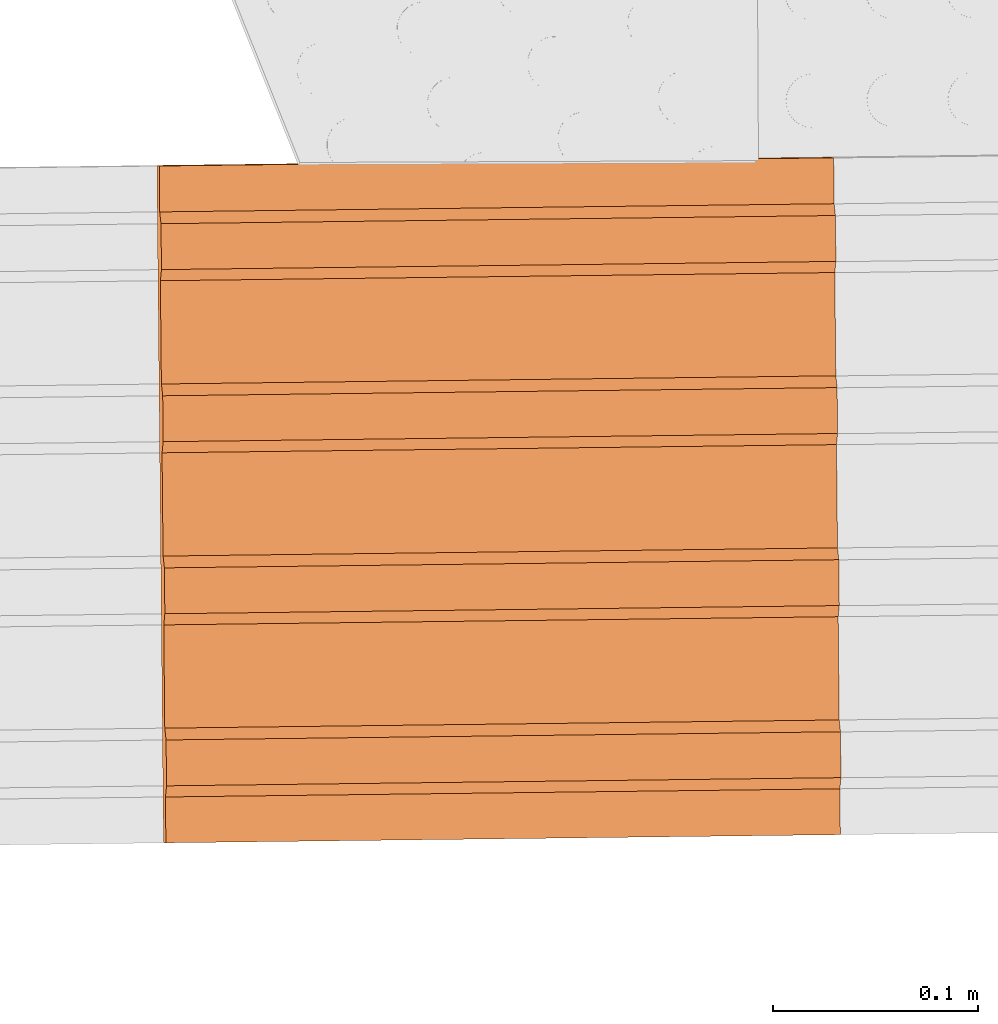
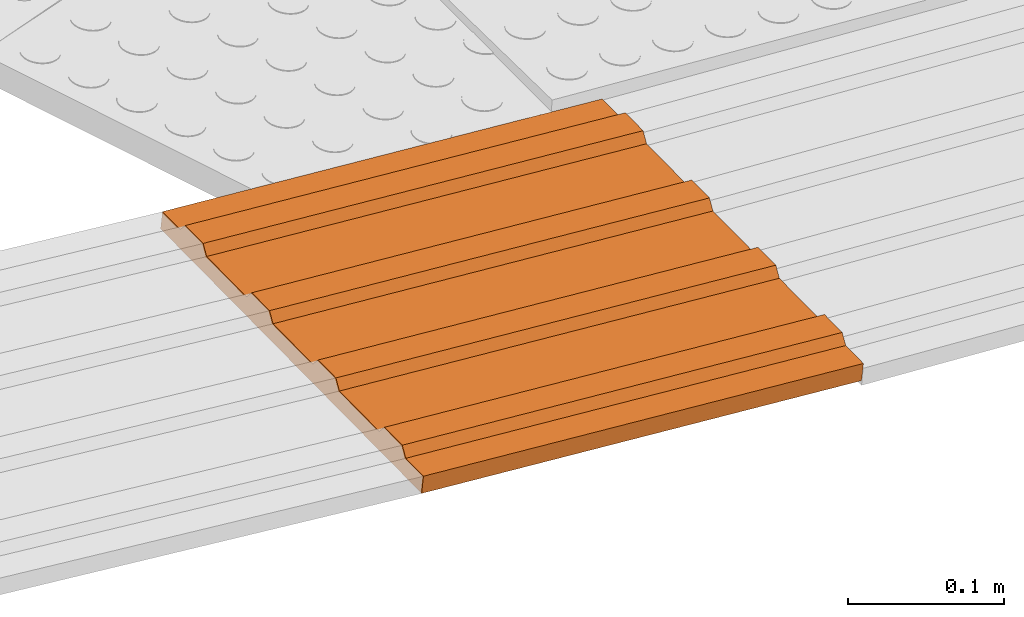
# One storey, part 225 of 237: 1 proxy.
"""IFC2X3 building model written with IfcOpenShell, lengths in millimetres."""

from ifc_helpers import new_model, entity, si_unit, converted_unit, derived_unit, money_unit, direction, frame, origin_with_axes, place, context, subcontext, project, spatial, open_shell, surface_model, type_object, element, save


model = new_model("IFC2X3")

# Units and contexts
model_context = context("Model", 3, precision=0.01, world=origin_with_axes(), true_north=direction((0.0, 1.0)))
body_context = subcontext(model_context, "Body", "Model", "MODEL_VIEW")
ifc_project = project(units=[si_unit("LENGTHUNIT", "METRE", prefix="MILLI"), si_unit("AREAUNIT", "SQUARE_METRE"), si_unit("VOLUMEUNIT", "CUBIC_METRE"), converted_unit("PLANEANGLEUNIT", "DEGREE", entity("IfcPlaneAngleMeasure", 0.0174532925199), si_unit("PLANEANGLEUNIT", "RADIAN"), dimensions=[0, 0, 0, 0, 0, 0, 0]), money_unit("USD"), converted_unit("TIMEUNIT", "Year", entity("IfcTimeMeasure", 31556926.0), si_unit("TIMEUNIT", "SECOND"), dimensions=[0, 0, 1, 0, 0, 0, 0]), si_unit("MASSUNIT", "GRAM", prefix="KILO"), si_unit("THERMODYNAMICTEMPERATUREUNIT", "DEGREE_CELSIUS"), si_unit("LUMINOUSINTENSITYUNIT", "LUMEN"), si_unit("ENERGYUNIT", "JOULE", prefix="MEGA"), derived_unit("THERMALCONDUCTANCEUNIT", [(si_unit("POWERUNIT", "WATT"), 1), (si_unit("LENGTHUNIT", "METRE"), -1), (si_unit("THERMODYNAMICTEMPERATUREUNIT", "KELVIN"), -1)]), derived_unit("SPECIFICHEATCAPACITYUNIT", [(si_unit("ENERGYUNIT", "JOULE"), 1), (si_unit("MASSUNIT", "GRAM", prefix="KILO"), -1), (si_unit("THERMODYNAMICTEMPERATUREUNIT", "KELVIN"), -1)]), derived_unit("MASSDENSITYUNIT", [(si_unit("MASSUNIT", "GRAM", prefix="KILO"), 1), (si_unit("VOLUMEUNIT", "CUBIC_METRE"), -1)])], contexts=[model_context])

# Site, building, storey
site_placement = place(None, origin_with_axes())
site = spatial("IfcSite", under=ifc_project, at=site_placement, Name="Local", CompositionType="ELEMENT")
building_placement = place(site_placement, origin_with_axes())
building = spatial("IfcBuilding", under=site, at=building_placement, Name="Construção", CompositionType="ELEMENT")
storey_placement = place(building_placement, origin_with_axes())
storey = spatial("IfcBuildingStorey", under=building, at=storey_placement, Name="Pavimento Térreo", CompositionType="ELEMENT", Elevation=0.0)

# Proxy
building_element_proxy_type = type_object("IfcBuildingElementProxyType", Name="Piso Direcional 27", PredefinedType="NOTDEFINED")
proxy_placement = place(storey_placement, frame((52499.2255291, 36685.4998498, -1693.38299299), z_axis=(0.0, 0.0, 1.0), x_axis=(-0.999926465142, -0.012127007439, 0.0)))
element("IfcBuildingElementProxy", 1, at=proxy_placement, inside=storey, type_object=building_element_proxy_type, Name="Objeto-0055", context=body_context, shape_type="SurfaceModel", body=[
    surface_model("IfcShellBasedSurfaceModel", [(-0.463382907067, -47.1365767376, 5.24378183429), (328.255643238, -47.1365767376, 34.2920494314), (327.681898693, -41.3707600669, 40.7847171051), (-1.03712745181, -41.3707600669, 11.736449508)], [open_shell([[[0, 1, 2, 3]]])]),
    surface_model("IfcShellBasedSurfaceModel", [(329.184035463, -153.720372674, 23.7860807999), (329.944430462, 176.166544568, 15.1812198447), (328.771165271, 176.515570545, 28.4582453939), (328.719613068, 154.150355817, 29.0416257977), (328.120092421, 148.733565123, 35.8259836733), (328.068540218, 126.368350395, 36.409364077), (328.642284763, 120.602533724, 29.9166964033), (328.526292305, 70.2808005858, 31.2293023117), (327.926771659, 64.8640098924, 38.0136601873), (327.875219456, 42.4987951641, 38.597040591), (328.448964, 36.7329784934, 32.1043729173), (328.332971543, -13.5887546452, 33.4169788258), (327.733450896, -19.0055453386, 40.2013367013), (327.681898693, -41.3707600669, 40.7847171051), (328.255643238, -47.1365767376, 34.2920494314), (328.13965078, -97.4583098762, 35.6046553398), (327.540130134, -102.87510057, 42.3890132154), (327.48857793, -125.240315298, 42.9723936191), (328.062322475, -131.006131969, 36.4797259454), (328.010770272, -153.371346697, 37.0631063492)], [open_shell([[[0, 1, 2, 3, 4, 5, 6, 7, 8, 9, 10, 11, 12, 13, 14, 15, 16, 17, 18, 19]]])]),
    surface_model("IfcShellBasedSurfaceModel", [(-0.985575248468, -19.0055453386, 11.1530691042), (327.733450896, -19.0055453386, 40.2013367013), (328.332971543, -13.5887546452, 33.4169788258), (-0.386054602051, -13.5887546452, 4.36871122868)], [open_shell([[[0, 1, 2, 3]]])]),
    surface_model("IfcShellBasedSurfaceModel", [(-1.17889601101, -102.87510057, 13.3407456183), (327.540130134, -102.87510057, 42.3890132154), (328.13965078, -97.4583098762, 35.6046553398), (-0.579375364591, -97.4583098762, 6.55638774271)], [open_shell([[[0, 1, 2, 3]]])]),
    surface_model("IfcShellBasedSurfaceModel", [(-0.792254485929, 64.8640098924, 8.96539259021), (327.926771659, 64.8640098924, 38.0136601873), (328.526292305, 70.2808005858, 31.2293023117), (-0.192733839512, 70.2808005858, 2.18103471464)], [open_shell([[[0, 1, 2, 3]]])]),
    surface_model("IfcShellBasedSurfaceModel", [(-0.270062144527, 36.7329784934, 3.05610532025), (328.448964, 36.7329784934, 32.1043729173), (327.875219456, 42.4987951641, 38.597040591), (-0.843806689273, 42.4987951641, 9.54877299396)], [open_shell([[[0, 1, 2, 3]]])]),
    surface_model("IfcShellBasedSurfaceModel", [(-0.656703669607, -131.006131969, 7.43145834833), (328.062322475, -131.006131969, 36.4797259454), (327.48857793, -125.240315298, 42.9723936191), (-1.23044821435, -125.240315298, 13.924126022)], [open_shell([[[0, 1, 2, 3]]])]),
    surface_model("IfcShellBasedSurfaceModel", [(0.0521391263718, 176.515570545, -0.590022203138), (0.000586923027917, 154.150355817, -0.00664179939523), (328.719613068, 154.150355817, 29.0416257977), (328.771165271, 176.515570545, 28.4582453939)], [open_shell([[[0, 1, 2, 3]]])]),
    surface_model("IfcShellBasedSurfaceModel", [(-0.0767413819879, 120.602533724, 0.868428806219), (328.642284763, 120.602533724, 29.9166964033), (328.068540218, 126.368350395, 36.409364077), (-0.650485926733, 126.368350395, 7.36109647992)], [open_shell([[[0, 1, 2, 3]]])]),
    surface_model("IfcShellBasedSurfaceModel", [(-0.598933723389, 148.733565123, 6.77771607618), (328.120092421, 148.733565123, 35.8259836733), (328.719613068, 154.150355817, 29.0416257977), (0.000586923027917, 154.150355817, -0.00664179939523)], [open_shell([[[0, 1, 2, 3]]])]),
    surface_model("IfcShellBasedSurfaceModel", [(-0.270062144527, 36.7329784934, 3.05610532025), (-0.386054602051, -13.5887546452, 4.36871122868), (328.332971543, -13.5887546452, 33.4169788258), (328.448964, 36.7329784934, 32.1043729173)], [open_shell([[[0, 1, 2, 3]]])]),
    surface_model("IfcShellBasedSurfaceModel", [(-0.0767413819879, 120.602533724, 0.868428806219), (-0.192733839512, 70.2808005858, 2.18103471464), (328.526292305, 70.2808005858, 31.2293023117), (328.642284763, 120.602533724, 29.9166964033)], [open_shell([[[0, 1, 2, 3]]])]),
    surface_model("IfcShellBasedSurfaceModel", [(-0.598933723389, 148.733565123, 6.77771607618), (-0.650485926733, 126.368350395, 7.36109647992), (328.068540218, 126.368350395, 36.409364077), (328.120092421, 148.733565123, 35.8259836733)], [open_shell([[[0, 1, 2, 3]]])]),
    surface_model("IfcShellBasedSurfaceModel", [(-0.0767413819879, 120.602533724, 0.868428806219), (-0.650485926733, 126.368350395, 7.36109647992), (-0.598933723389, 148.733565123, 6.77771607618), (0.000586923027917, 154.150355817, -0.00664179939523), (0.0521391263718, 176.515570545, -0.590022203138), (1.22540431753, 176.166544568, -13.8670477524), (0.465009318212, -153.720372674, -5.2621867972), (-0.70825587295, -153.371346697, 8.01483875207), (-0.656703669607, -131.006131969, 7.43145834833), (-1.23044821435, -125.240315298, 13.924126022), (-1.17889601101, -102.87510057, 13.3407456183), (-0.579375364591, -97.4583098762, 6.55638774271), (-0.463382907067, -47.1365767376, 5.24378183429), (-1.03712745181, -41.3707600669, 11.736449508), (-0.985575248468, -19.0055453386, 11.1530691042), (-0.386054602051, -13.5887546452, 4.36871122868), (-0.270062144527, 36.7329784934, 3.05610532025), (-0.843806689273, 42.4987951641, 9.54877299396), (-0.792254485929, 64.8640098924, 8.96539259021), (-0.192733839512, 70.2808005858, 2.18103471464)], [open_shell([[[0, 1, 2, 3, 4, 5, 6, 7, 8, 9, 10, 11, 12, 13, 14, 15, 16, 17, 18, 19]]])]),
    surface_model("IfcShellBasedSurfaceModel", [(327.681898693, -41.3707600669, 40.7847171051), (327.733450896, -19.0055453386, 40.2013367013), (-0.985575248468, -19.0055453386, 11.1530691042), (-1.03712745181, -41.3707600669, 11.736449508)], [open_shell([[[0, 1, 2, 3]]])]),
    surface_model("IfcShellBasedSurfaceModel", [(-0.463382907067, -47.1365767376, 5.24378183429), (-0.579375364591, -97.4583098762, 6.55638774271), (328.13965078, -97.4583098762, 35.6046553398), (328.255643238, -47.1365767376, 34.2920494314)], [open_shell([[[0, 1, 2, 3]]])]),
    surface_model("IfcShellBasedSurfaceModel", [(327.875219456, 42.4987951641, 38.597040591), (327.926771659, 64.8640098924, 38.0136601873), (-0.792254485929, 64.8640098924, 8.96539259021), (-0.843806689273, 42.4987951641, 9.54877299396)], [open_shell([[[0, 1, 2, 3]]])]),
    surface_model("IfcShellBasedSurfaceModel", [(327.48857793, -125.240315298, 42.9723936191), (327.540130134, -102.87510057, 42.3890132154), (-1.17889601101, -102.87510057, 13.3407456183), (-1.23044821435, -125.240315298, 13.924126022)], [open_shell([[[0, 1, 2, 3]]])]),
    surface_model("IfcShellBasedSurfaceModel", [(329.944430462, 176.166544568, 15.1812198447), (1.22540431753, 176.166544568, -13.8670477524), (0.0521391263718, 176.515570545, -0.590022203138), (328.771165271, 176.515570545, 28.4582453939)], [open_shell([[[0, 1, 2, 3]]])]),
    surface_model("IfcShellBasedSurfaceModel", [(329.184035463, -153.720372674, 23.7860807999), (0.465009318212, -153.720372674, -5.2621867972), (1.22540431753, 176.166544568, -13.8670477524), (329.944430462, 176.166544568, 15.1812198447)], [open_shell([[[0, 1, 2, 3]]])]),
    surface_model("IfcShellBasedSurfaceModel", [(328.010770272, -153.371346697, 37.0631063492), (328.062322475, -131.006131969, 36.4797259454), (-0.656703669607, -131.006131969, 7.43145834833), (-0.70825587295, -153.371346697, 8.01483875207)], [open_shell([[[0, 1, 2, 3]]])]),
    surface_model("IfcShellBasedSurfaceModel", [(0.465009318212, -153.720372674, -5.2621867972), (329.184035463, -153.720372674, 23.7860807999), (328.010770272, -153.371346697, 37.0631063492), (-0.70825587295, -153.371346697, 8.01483875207)], [open_shell([[[0, 1, 2, 3]]])]),
])

save(model, "model.ifc")
